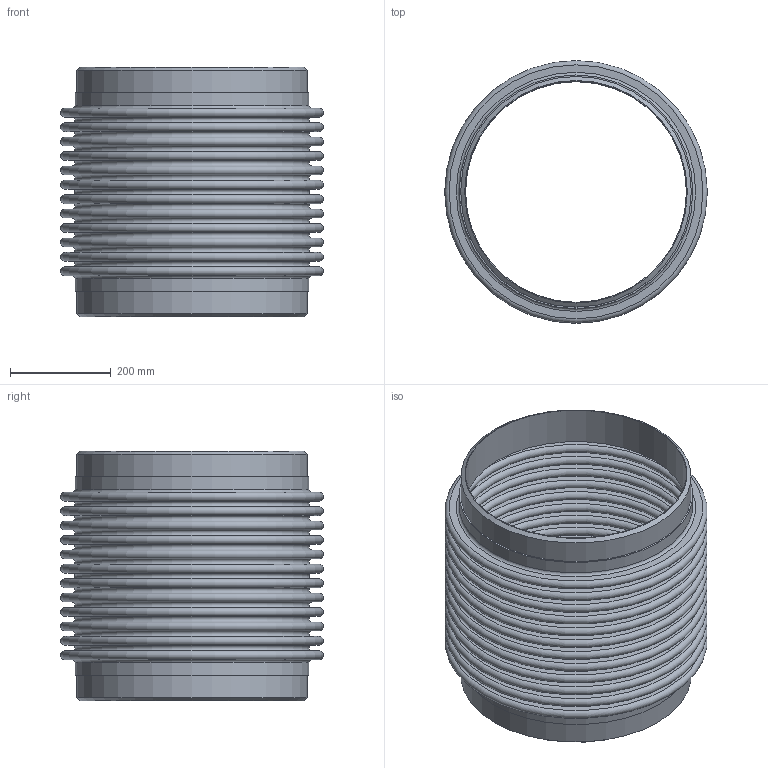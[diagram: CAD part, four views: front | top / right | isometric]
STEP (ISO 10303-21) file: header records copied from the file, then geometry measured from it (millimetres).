
FILE_DESCRIPTION(/* description */ ('EXPANSION JOINT,SINGLE, WELD ENDS,4 INCH NOMINAL'),/* implementation_level */ '2;1');
FILE_NAME(/* name */ 'ASSEMBLY US-18-12-300L.stp',/* time_stamp */ '2026-07-30T07:50:35-05:00',/* author */ ('jorgef'),/* organization */ (''),/* preprocessor_version */ 'ST-DEVELOPER v20.1',/* originating_system */ 'Autodesk Inventor 2026',/* authorisation */ '');
FILE_SCHEMA (('AUTOMOTIVE_DESIGN { 1 0 10303 214 3 1 1 }'));
Length unit declared in the file: inch
Products named in the file (3): ASSEMBLY  US-18-12-300L; STOCK BELLOW - US-18-12-300L; PIPE- US-18-12-300L
Assembly tree (3 placements, depth 2):
  ASSEMBLY  US-18-12-300L
    STOCK BELLOW - US-18-12-300L
    PIPE- US-18-12-300L  x2
Bounding box: 520.7 x 520.7 x 495.3 mm (x, y, z)
Volume: 6338365.2 mm3; surface area: 3361502.1 mm2
Topology: 5 solids, 5 shells, 118 faces, 180 edges, 121 vertices
Faces by surface type: plane 58, torus 50, cylinder 8, cone 2
Full cylindrical faces by diameter (mm): 438.15 x2, 457.2 x4, 463.296 x2
Entity records: 2769 total; most frequent: DIRECTION 573, CARTESIAN_POINT 405, ORIENTED_EDGE 342, AXIS2_PLACEMENT_3D 283, EDGE_CURVE 171, EDGE_LOOP 169, CIRCLE 164, VERTEX_POINT 114
